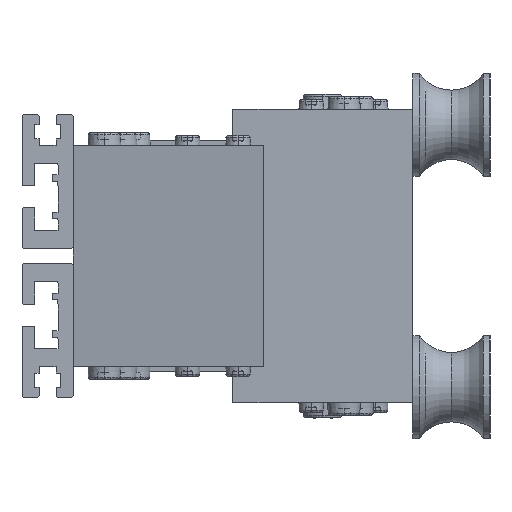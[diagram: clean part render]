
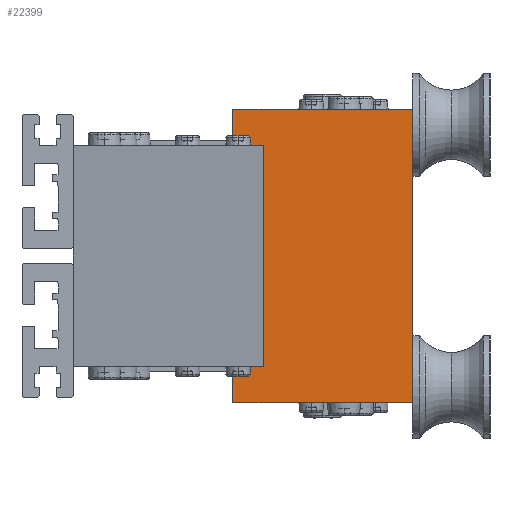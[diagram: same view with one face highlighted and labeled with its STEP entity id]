
A CAD part, left-side view. The second image highlights one B-rep face of the part: STEP entity #22399.
In plain terms, the highlighted planar face has unit normal (-1, 0, 0).
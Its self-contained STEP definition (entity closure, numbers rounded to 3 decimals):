
#875 = CARTESIAN_POINT ( 'NONE',  ( -366.813, 46.154, 1898.057 ) ) ;
#1640 = CARTESIAN_POINT ( 'NONE',  ( -366.813, 46.154, 1093. ) ) ;
#1840 = DIRECTION ( 'NONE',  ( 0., 1., 0. ) ) ;
#2007 = VECTOR ( 'NONE', #11751, 1000. ) ;
#3783 = FACE_OUTER_BOUND ( 'NONE', #19485, .T. ) ;
#3978 = PLANE ( 'NONE',  #35163 ) ;
#4331 = LINE ( 'NONE', #7933, #31289 ) ;
#4632 = LINE ( 'NONE', #22600, #15458 ) ;
#4827 = DIRECTION ( 'NONE',  ( 0., -1., 0. ) ) ;
#5127 = VERTEX_POINT ( 'NONE', #9122 ) ;
#6081 = EDGE_CURVE ( 'NONE', #22748, #28678, #4632, .T. ) ;
#6692 = ORIENTED_EDGE ( 'NONE', *, *, #16985, .F. ) ;
#7933 = CARTESIAN_POINT ( 'NONE',  ( -366.813, 34.154, 1898.057 ) ) ;
#8681 = DIRECTION ( 'NONE',  ( 0., 0., 1. ) ) ;
#9122 = CARTESIAN_POINT ( 'NONE',  ( -366.813, 34.154, 1007. ) ) ;
#9634 = CARTESIAN_POINT ( 'NONE',  ( -366.813, 11.154, 993. ) ) ;
#9773 = VERTEX_POINT ( 'NONE', #38061 ) ;
#11372 = LINE ( 'NONE', #17969, #2007 ) ;
#11751 = DIRECTION ( 'NONE',  ( 0., 0., 1. ) ) ;
#12289 = EDGE_CURVE ( 'NONE', #31056, #28678, #11372, .T. ) ;
#12366 = ORIENTED_EDGE ( 'NONE', *, *, #18391, .F. ) ;
#13081 = VERTEX_POINT ( 'NONE', #33027 ) ;
#13175 = VERTEX_POINT ( 'NONE', #16651 ) ;
#14287 = CARTESIAN_POINT ( 'NONE',  ( -366.813, 46.154, 1898.057 ) ) ;
#15216 = EDGE_CURVE ( 'NONE', #13175, #22748, #17293, .T. ) ;
#15458 = VECTOR ( 'NONE', #4827, 1000. ) ;
#15807 = LINE ( 'NONE', #9634, #29828 ) ;
#16651 = CARTESIAN_POINT ( 'NONE',  ( -366.813, 46.154, 1093. ) ) ;
#16985 = EDGE_CURVE ( 'NONE', #31056, #13081, #15807, .T. ) ;
#17293 = LINE ( 'NONE', #14287, #30405 ) ;
#17969 = CARTESIAN_POINT ( 'NONE',  ( -366.813, -23.846, 1898.057 ) ) ;
#18391 = EDGE_CURVE ( 'NONE', #13081, #9773, #34422, .T. ) ;
#19011 = VECTOR ( 'NONE', #32018, 1000. ) ;
#19122 = VECTOR ( 'NONE', #24406, 1000. ) ;
#19485 = EDGE_LOOP ( 'NONE', ( #25173, #33802, #35331, #12366, #6692, #32187, #32943, #38525 ) ) ;
#20122 = DIRECTION ( 'NONE',  ( 0., 0., 1. ) ) ;
#20413 = LINE ( 'NONE', #1640, #32716 ) ;
#20877 = CARTESIAN_POINT ( 'NONE',  ( -366.813, -23.846, 993. ) ) ;
#21769 = DIRECTION ( 'NONE',  ( 1., 0., 0. ) ) ;
#22399 = ADVANCED_FACE ( 'NONE', ( #3783 ), #3978, .F. ) ;
#22600 = CARTESIAN_POINT ( 'NONE',  ( -366.813, 11.154, 1107. ) ) ;
#22748 = VERTEX_POINT ( 'NONE', #23530 ) ;
#23530 = CARTESIAN_POINT ( 'NONE',  ( -366.813, 46.154, 1107. ) ) ;
#24152 = EDGE_CURVE ( 'NONE', #5127, #25788, #4331, .T. ) ;
#24211 = CARTESIAN_POINT ( 'NONE',  ( -366.813, 46.154, 1007. ) ) ;
#24406 = DIRECTION ( 'NONE',  ( 0., -1., 0. ) ) ;
#24751 = CARTESIAN_POINT ( 'NONE',  ( -366.813, 46.154, 1898.057 ) ) ;
#25173 = ORIENTED_EDGE ( 'NONE', *, *, #26664, .F. ) ;
#25788 = VERTEX_POINT ( 'NONE', #27065 ) ;
#26664 = EDGE_CURVE ( 'NONE', #25788, #13175, #20413, .T. ) ;
#27065 = CARTESIAN_POINT ( 'NONE',  ( -366.813, 34.154, 1093. ) ) ;
#28348 = DIRECTION ( 'NONE',  ( 0., 1., 0. ) ) ;
#28678 = VERTEX_POINT ( 'NONE', #33603 ) ;
#28856 = EDGE_CURVE ( 'NONE', #9773, #5127, #39368, .T. ) ;
#29828 = VECTOR ( 'NONE', #31402, 1000. ) ;
#30405 = VECTOR ( 'NONE', #8681, 1000. ) ;
#31056 = VERTEX_POINT ( 'NONE', #20877 ) ;
#31289 = VECTOR ( 'NONE', #20122, 1000. ) ;
#31402 = DIRECTION ( 'NONE',  ( 0., 1., 0. ) ) ;
#32018 = DIRECTION ( 'NONE',  ( 0., 0., 1. ) ) ;
#32187 = ORIENTED_EDGE ( 'NONE', *, *, #12289, .T. ) ;
#32716 = VECTOR ( 'NONE', #1840, 1000. ) ;
#32943 = ORIENTED_EDGE ( 'NONE', *, *, #6081, .F. ) ;
#33027 = CARTESIAN_POINT ( 'NONE',  ( -366.813, 46.154, 993. ) ) ;
#33603 = CARTESIAN_POINT ( 'NONE',  ( -366.813, -23.846, 1107. ) ) ;
#33802 = ORIENTED_EDGE ( 'NONE', *, *, #24152, .F. ) ;
#34422 = LINE ( 'NONE', #875, #19011 ) ;
#35163 = AXIS2_PLACEMENT_3D ( 'NONE', #24751, #21769, #28348 ) ;
#35331 = ORIENTED_EDGE ( 'NONE', *, *, #28856, .F. ) ;
#38061 = CARTESIAN_POINT ( 'NONE',  ( -366.813, 46.154, 1007. ) ) ;
#38525 = ORIENTED_EDGE ( 'NONE', *, *, #15216, .F. ) ;
#39368 = LINE ( 'NONE', #24211, #19122 ) ;
